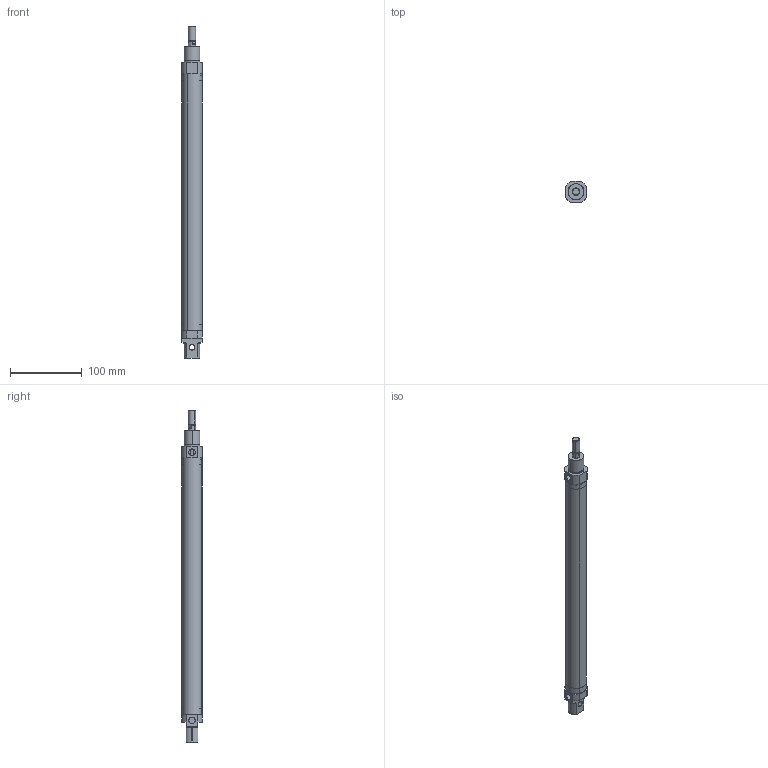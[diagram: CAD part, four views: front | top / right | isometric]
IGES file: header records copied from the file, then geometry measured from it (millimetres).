
Start section: SolidWorks IGES file using analytic representation for surfaces
Global section: file name: D:\ARICA 3D ÇÝZÝMLER\3D IGES\MA-CR-S KROM SERÝSÝ\MA-CR-S 25\MA-CR-S-25x320CYLINDER.IGS; native system: SolidWorks 2013; preprocessor: SolidWorks 2013; author: user; date: 161123.161838; units: millimetre
Bounding box: 29 x 29 x 462.2 mm (x, y, z)
Surface area: 88941.1 mm2 (no closed solid volume)
Topology: 0 solids, 0 shells, 94 faces, 1588 edges, 1588 vertices
Faces by surface type: revolution 57, bspline 37
